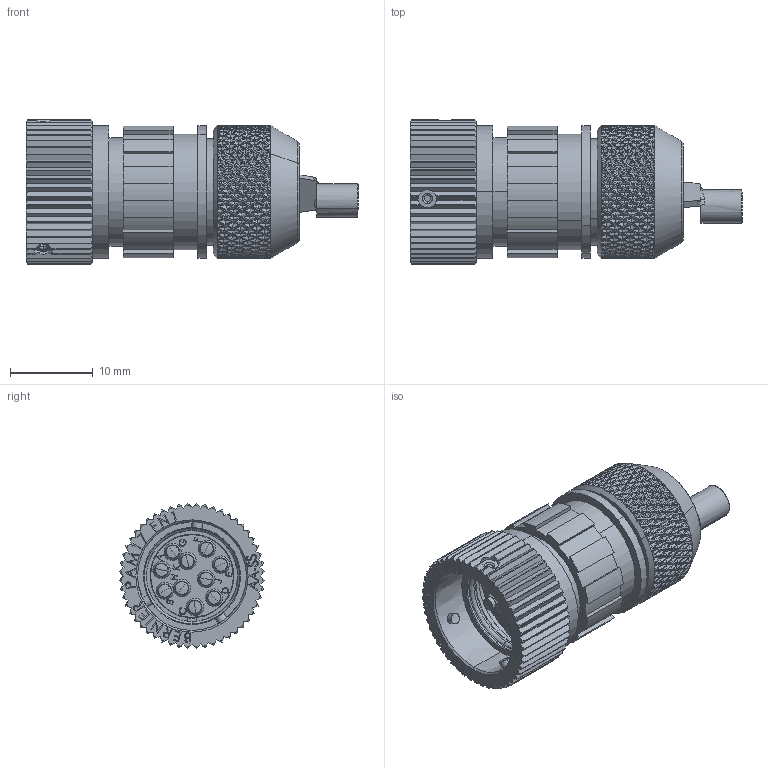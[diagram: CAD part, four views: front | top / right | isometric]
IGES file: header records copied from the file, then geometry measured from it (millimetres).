
Start section: SolidWorks IGES file using analytic representation for surfaces
Global section: file name: C:\Users\jgc\Desktop\PAM17 FNRA1.IGS; native system: SolidWorks 2023; preprocessor: SolidWorks 2023; author: JGC; date: 241018.092231; units: millimetre
Bounding box: 40.03 x 17.47 x 17.47 mm (x, y, z)
Volume: 4050.3 mm3; surface area: 4551.5 mm2
Topology: 1 solids, 1 shells, 3833 faces, 9418 edges, 5695 vertices
Faces by surface type: bspline 2138, plane 911, revolution 784
